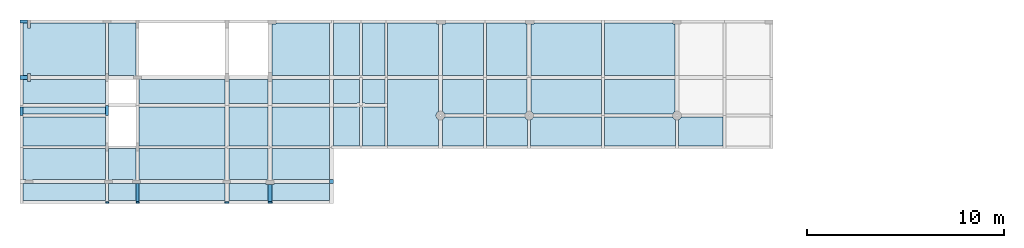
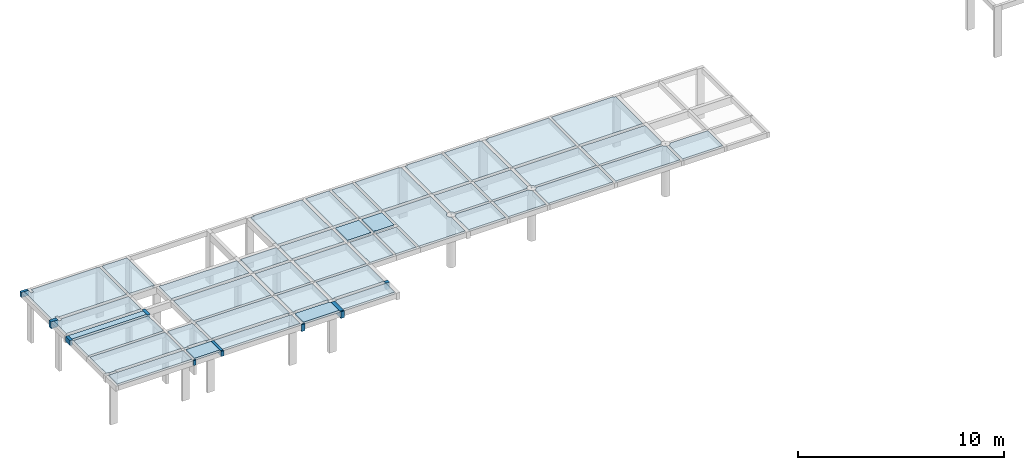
# One storey, part 3 of 4: 43 slabs, 11 beams.
"""IFC2X3 building model written with IfcOpenShell, lengths in centimetres."""

from ifc_helpers import new_model, si_unit, derived_unit, frame, origin, origin_with_axes, origin_2d_with_axis, place, context, project, spatial, polyline, rectangle, outline, extrude, material, element, save


model = new_model("IFC2X3")

# Units and contexts
model_context = context("Model", 3, precision=1e-05, world=origin_with_axes(), identifier="Body")
ifc_project = project(units=[si_unit("LENGTHUNIT", "METRE", prefix="CENTI"), si_unit("VOLUMEUNIT", "CUBIC_METRE"), si_unit("AREAUNIT", "SQUARE_METRE"), si_unit("POWERUNIT", "WATT"), si_unit("LUMINOUSFLUXUNIT", "LUMEN"), si_unit("ELECTRICCURRENTUNIT", "AMPERE"), si_unit("PRESSUREUNIT", "PASCAL", prefix="KILO"), si_unit("MASSUNIT", "GRAM", prefix="KILO"), si_unit("PLANEANGLEUNIT", "RADIAN"), derived_unit("VOLUMETRICFLOWRATEUNIT", [(si_unit("LENGTHUNIT", "METRE"), 3), (si_unit("TIMEUNIT", "SECOND"), -1)])], contexts=[model_context])

# Site, building, storey
site_placement = place(None, origin_with_axes())
site = spatial("IfcSite", under=ifc_project, at=site_placement)
building_placement = place(site_placement, origin())
building = spatial("IfcBuilding", under=site, at=building_placement)
placement_1 = place(building_placement, origin_with_axes())
placement_2 = place(placement_1, frame((0.0, 0.0, 80.0), z_axis=(0.0, 0.0, 1.0), x_axis=(1.0, 0.0, 0.0)))
placement_3 = place(placement_2, frame((0.0, 0.0, 320.0), z_axis=(0.0, 0.0, 1.0), x_axis=(1.0, 0.0, 0.0)))
placement_4 = place(placement_3, frame((0.0, 0.0, 320.0), z_axis=(0.0, 0.0, 1.0), x_axis=(1.0, 0.0, 0.0)))
storey_placement = place(placement_4, frame((0.0, 0.0, 300.0), z_axis=(0.0, 0.0, 1.0), x_axis=(1.0, 0.0, 0.0)))
storey = spatial("IfcBuildingStorey", under=building, at=storey_placement, Name="05. Pavimento Técnico", CompositionType="ELEMENT", Elevation=1020.0)

# Beams
ifc_material = material(Name="Concreto")
beam_1_placement = place(storey_placement, frame((-1474.96, -281.61, 0.0), z_axis=(0.0, 0.0, 1.0), x_axis=(1.0, 0.0, 0.0)))
element("IfcBeam", 1, at=beam_1_placement, inside=storey, material=ifc_material, Name="V1", context=model_context, shape_type="SolidModel", body=[
    extrude(rectangle(XDim=15.0, YDim=30.0, at=origin_2d_with_axis()), frame((-19.5, 0.0, -15.0), z_axis=(1.0, 0.0, 0.0), x_axis=(0.0, -1.0, 0.0)), (0.0, 0.0, 1.0), 39.0),
])
beam_2_placement = place(storey_placement, frame((85.54, -1094.11, 0.0), z_axis=(0.0, 0.0, 1.0), x_axis=(1.0, 0.0, 0.0)))
element("IfcBeam", 2, at=beam_2_placement, inside=storey, material=ifc_material, Name="V12", context=model_context, shape_type="SolidModel", body=[
    extrude(rectangle(XDim=20.0, YDim=40.0, at=origin_2d_with_axis()), frame((-10.0, 0.0, -20.0), z_axis=(1.0, 0.0, 0.0), x_axis=(0.0, -1.0, 0.0)), (0.0, 0.0, 1.0), 20.0),
])
beam_3_placement = place(storey_placement, frame((-1486.96, -737.785, 0.0), z_axis=(0.0, 0.0, 1.0), x_axis=(1.0, 0.0, 0.0)))
element("IfcBeam", 3, at=beam_3_placement, inside=storey, material=ifc_material, Name="V14", context=model_context, shape_type="SolidModel", body=[
    extrude(rectangle(XDim=15.0, YDim=30.0, at=origin_2d_with_axis()), frame((0.0, -21.175, -15.0), z_axis=(0.0, 1.0, 0.0), x_axis=(-1.0, 0.0, 0.0)), (0.0, 0.0, 1.0), 42.35),
])
beam_4_placement = place(storey_placement, frame((-1052.96, -732.785, 0.0), z_axis=(0.0, 0.0, 1.0), x_axis=(1.0, 0.0, 0.0)))
element("IfcBeam", 4, at=beam_4_placement, inside=storey, material=ifc_material, Name="V15", context=model_context, shape_type="SolidModel", body=[
    extrude(rectangle(XDim=15.0, YDim=30.0, at=origin_2d_with_axis()), frame((0.0, -26.175, -15.0), z_axis=(0.0, 1.0, 0.0), x_axis=(-1.0, 0.0, 0.0)), (0.0, 0.0, 1.0), 52.35),
])
for number, where, z_axis, x_axis, name in (
    (5, (-1052.96, -1200.36, 0.0), (0.0, 0.0, 1.0), (1.0, 0.0, 0.0), "V15"),
    (6, (-897.96, -1200.36, 0.0), (0.0, 0.0, 1.0), (1.0, 0.0, 0.0), "V16"),
):
    element("IfcBeam", number, at=place(storey_placement, frame(where, z_axis=z_axis, x_axis=x_axis)), inside=storey, material=ifc_material, Name=name, context=model_context, shape_type="SolidModel", body=[
        extrude(rectangle(XDim=15.0, YDim=30.0, at=origin_2d_with_axis()), frame((0.0, -3.75, -15.0), z_axis=(0.0, 1.0, 0.0), x_axis=(-1.0, 0.0, 0.0)), (0.0, 0.0, 1.0), 7.5),
    ])
beam_5_placement = place(storey_placement, frame((-897.96, -1150.355, 0.0), z_axis=(0.0, 0.0, 1.0), x_axis=(1.0, 0.0, 0.0)))
element("IfcBeam", 7, at=beam_5_placement, inside=storey, material=ifc_material, Name="V16", context=model_context, shape_type="SolidModel", body=[
    extrude(rectangle(XDim=15.0, YDim=30.0, at=origin_2d_with_axis()), frame((0.0, -46.255, -15.0), z_axis=(0.0, 1.0, 0.0), x_axis=(-1.0, 0.0, 0.0)), (0.0, 0.0, 1.0), 92.51),
])
for number, where, z_axis, x_axis, name in (
    (8, (-445.46, -1200.36, 0.0), (0.0, 0.0, 1.0), (1.0, 0.0, 0.0), "V17"),
    (9, (-225.46, -1200.36, 0.0), (0.0, 0.0, 1.0), (1.0, 0.0, 0.0), "V18"),
):
    element("IfcBeam", number, at=place(storey_placement, frame(where, z_axis=z_axis, x_axis=x_axis)), inside=storey, material=ifc_material, Name=name, context=model_context, shape_type="SolidModel", body=[
        extrude(rectangle(XDim=20.0, YDim=40.0, at=origin_2d_with_axis()), frame((0.0, -3.75, -20.0), z_axis=(0.0, 1.0, 0.0), x_axis=(1.0, 0.0, 0.0)), (0.0, 0.0, 1.0), 7.5),
    ])
beam_6_placement = place(storey_placement, frame((-225.46, -1152.855, 0.0), z_axis=(0.0, 0.0, 1.0), x_axis=(1.0, 0.0, 0.0)))
element("IfcBeam", 10, at=beam_6_placement, inside=storey, material=ifc_material, Name="V18", context=model_context, shape_type="SolidModel", body=[
    extrude(rectangle(XDim=20.0, YDim=40.0, at=origin_2d_with_axis()), frame((0.0, -43.755, -20.0), z_axis=(0.0, 1.0, 0.0), x_axis=(1.0, 0.0, 0.0)), (0.0, 0.0, 1.0), 87.51),
])
beam_7_placement = place(storey_placement, frame((-1474.96, -566.61, 0.0), z_axis=(0.0, 0.0, 1.0), x_axis=(1.0, 0.0, 0.0)))
element("IfcBeam", 11, at=beam_7_placement, inside=storey, material=ifc_material, Name="V3", context=model_context, shape_type="SolidModel", body=[
    extrude(rectangle(XDim=20.0, YDim=40.0, at=origin_2d_with_axis()), frame((-19.5, 0.0, -20.0), z_axis=(1.0, 0.0, 0.0), x_axis=(0.0, -1.0, 0.0)), (0.0, 0.0, 1.0), 39.0),
])

# Slabs
slab_1_placement = place(storey_placement, frame((-1269.96, -422.86, 0.0), z_axis=(0.0, 0.0, 1.0), x_axis=(1.0, 0.0, 0.0)))
element("IfcSlab", 12, at=slab_1_placement, inside=storey, material=ifc_material, Name="L1", PredefinedType="FLOOR", context=model_context, shape_type="SolidModel", body=[
    extrude(outline(polyline([(-185.5, -133.749), (-185.5, -123.75), (-170.5, -123.75), (-170.499, -133.749), (209.499, -133.749), (209.499, 133.28), (196.999, 133.28), (197.0, 133.749), (-170.5, 133.749), (-170.5, 108.749), (-185.5, 108.749), (-185.499, 133.75), (-209.499, 133.75), (-209.499, -133.75), (-185.5, -133.749), (-185.5, -133.749)])), frame((0.0, 0.0, -12.0), z_axis=(0.0, 0.0, 1.0), x_axis=(1.0, 0.0, 0.0)), (0.0, 0.0, 1.0), 12.0),
])
slab_2_placement = place(storey_placement, frame((1649.8545, -422.8595, 0.0), z_axis=(0.0, 0.0, 1.0), x_axis=(1.0, 0.0, 0.0)))
element("IfcSlab", 13, at=slab_2_placement, inside=storey, material=ifc_material, Name="L10", PredefinedType="FLOOR", context=model_context, shape_type="SolidModel", body=[
    extrude(outline(polyline([(178.684, 128.749), (168.684, 128.749), (168.684, 133.75), (-178.685, 133.75), (-178.685, -133.749), (178.684, -133.749), (178.684, 128.749), (178.684, 128.749)])), frame((0.0005, -0.0005, -12.0), z_axis=(0.0, 0.0, 1.0), x_axis=(1.0, 0.0, 0.0)), (0.0, 0.0, 1.0), 12.0),
])
slab_3_placement = place(storey_placement, frame((-1269.96, -636.61, 0.0), z_axis=(0.0, 0.0, 1.0), x_axis=(1.0, 0.0, 0.0)))
element("IfcSlab", 14, at=slab_3_placement, inside=storey, material=ifc_material, Name="L14", PredefinedType="FLOOR", context=model_context, shape_type="SolidModel", body=[
    extrude(outline(polyline([(209.5, -60.0), (209.499, 60.0), (-170.5, 60.0), (-170.5, 49.999), (-185.5, 49.999), (-185.5, 59.999), (-209.5, 59.999), (-209.5, -60.0), (209.5, -60.0), (209.5, -60.0)])), frame((0.0, 0.0, -12.0), z_axis=(0.0, 0.0, 1.0), x_axis=(1.0, 0.0, 0.0)), (0.0, 0.0, 1.0), 12.0),
])
slab_4_placement = place(storey_placement, frame((-672.9595, -635.36, 0.0), z_axis=(0.0, 0.0, 1.0), x_axis=(1.0, 0.0, 0.0)))
element("IfcSlab", 15, at=slab_4_placement, inside=storey, material=ifc_material, Name="L15", PredefinedType="FLOOR", context=model_context, shape_type="SolidModel", body=[
    extrude(outline(polyline([(217.5, 58.749), (-208.0, 58.749), (-208.0, 61.249), (-217.499, 61.25), (-217.499, -61.25), (217.5, -61.25), (217.5, 58.749), (217.5, 58.749)])), frame((-0.0005, 0.0, -12.0), z_axis=(0.0, 0.0, 1.0), x_axis=(1.0, 0.0, 0.0)), (0.0, 0.0, 1.0), 12.0),
])
slab_5_placement = place(storey_placement, frame((-335.46, -636.61, 0.0), z_axis=(0.0, 0.0, 1.0), x_axis=(1.0, 0.0, 0.0)))
element("IfcSlab", 16, at=slab_5_placement, inside=storey, material=ifc_material, Name="L16", PredefinedType="FLOOR", context=model_context, shape_type="SolidModel", body=[
    extrude(outline(polyline([(99.999, -59.999), (100.0, 60.0), (-99.999, 59.999), (-100.0, -60.0), (99.999, -59.999), (99.999, -59.999)])), frame((0.0, 0.0, -12.0), z_axis=(0.0, 0.0, 1.0), x_axis=(1.0, 0.0, 0.0)), (0.0, 0.0, 1.0), 12.0),
])
slab_6_placement = place(storey_placement, frame((-69.9595, -636.6105, 0.0), z_axis=(0.0, 0.0, 1.0), x_axis=(1.0, 0.0, 0.0)))
element("IfcSlab", 17, at=slab_6_placement, inside=storey, material=ifc_material, Name="L17", PredefinedType="FLOOR", context=model_context, shape_type="SolidModel", body=[
    extrude(outline(polyline([(145.5, 59.999), (-145.499, 59.999), (-145.499, -59.999), (145.5, -60.0), (145.5, 59.999), (145.5, 59.999)])), frame((-0.0005, 0.0005, -12.0), z_axis=(0.0, 0.0, 1.0), x_axis=(1.0, 0.0, 0.0)), (0.0, 0.0, 1.0), 12.0),
])
slab_7_placement = place(storey_placement, frame((161.29, -636.61, 0.0), z_axis=(0.0, 0.0, 1.0), x_axis=(1.0, 0.0, 0.0)))
element("IfcSlab", 18, at=slab_7_placement, inside=storey, material=ifc_material, Name="L18", PredefinedType="FLOOR", context=model_context, shape_type="SolidModel", body=[
    extrude(outline(polyline([(53.249, -57.5), (65.75, -57.5), (65.75, 60.0), (-65.75, 59.999), (-65.75, -60.0), (53.25, -60.0), (53.249, -57.5), (53.249, -57.5)])), frame((0.0, 0.0, -12.0), z_axis=(0.0, 0.0, 1.0), x_axis=(1.0, 0.0, 0.0)), (0.0, 0.0, 1.0), 12.0),
])
slab_8_placement = place(storey_placement, frame((298.9155, -636.61, 0.0), z_axis=(0.0, 0.0, 1.0), x_axis=(1.0, 0.0, 0.0)))
element("IfcSlab", 19, at=slab_8_placement, inside=storey, material=ifc_material, Name="L19", PredefinedType="FLOOR", context=model_context, shape_type="SolidModel", body=[
    extrude(outline(polyline([(56.875, 59.999), (-56.874, 59.999), (-56.874, -57.5), (-44.375, -57.5), (-44.375, -59.999), (56.874, -59.999), (56.875, 59.999), (56.875, 59.999)])), frame((-0.0005, 0.0, -12.0), z_axis=(0.0, 0.0, 1.0), x_axis=(1.0, 0.0, 0.0)), (0.0, 0.0, 1.0), 12.0),
])
slab_9_placement = place(storey_placement, frame((-975.46, -424.11, 0.0), z_axis=(0.0, 0.0, 1.0), x_axis=(1.0, 0.0, 0.0)))
element("IfcSlab", 20, at=slab_9_placement, inside=storey, material=ifc_material, Name="L2", PredefinedType="FLOOR", context=model_context, shape_type="SolidModel", body=[
    extrude(outline(polyline([(69.999, -134.999), (70.0, 134.999), (-57.5, 134.999), (-57.5, 134.53), (-70.0, 134.53), (-69.999, -132.499), (60.499, -132.5), (60.5, -134.999), (69.999, -134.999), (69.999, -134.999)])), frame((0.0, 0.0, -12.0), z_axis=(0.0, 0.0, 1.0), x_axis=(1.0, 0.0, 0.0)), (0.0, 0.0, 1.0), 12.0),
])
slab_10_placement = place(storey_placement, frame((499.6655, -744.36, 0.0), z_axis=(0.0, 0.0, 1.0), x_axis=(1.0, 0.0, 0.0)))
element("IfcSlab", 21, at=slab_10_placement, inside=storey, material=ifc_material, Name="L20", PredefinedType="FLOOR", context=model_context, shape_type="SolidModel", body=[
    extrude(outline(polyline([(128.875, -34.552), (127.754, -34.09), (123.094, -30.51), (119.514, -25.85), (117.275, -20.419), (116.504, -14.6), (117.275, -8.779), (119.514, -3.35), (123.094, 1.31), (127.754, 4.889), (128.875, 5.352), (128.874, 167.75), (-128.874, 167.75), (-128.874, -167.749), (128.875, -167.75), (128.875, -34.552), (128.875, -34.552)])), frame((-0.0005, 0.0, -12.0), z_axis=(0.0, 0.0, 1.0), x_axis=(1.0, 0.0, 0.0)), (0.0, 0.0, 1.0), 12.0),
])
slab_11_placement = place(storey_placement, frame((752.29, -664.0355, 0.0), z_axis=(0.0, 0.0, 1.0), x_axis=(1.0, 0.0, 0.0)))
element("IfcSlab", 22, at=slab_11_placement, inside=storey, material=ifc_material, Name="L21", PredefinedType="FLOOR", context=model_context, shape_type="SolidModel", body=[
    extrude(outline(polyline([(103.75, 87.424), (-103.75, 87.424), (-103.75, -74.865), (-102.37, -75.435), (-97.709, -79.014), (-94.13, -83.675), (-92.583, -87.425), (103.75, -87.425), (103.75, 87.424), (103.75, 87.424)])), frame((0.0, 0.0005, -12.0), z_axis=(0.0, 0.0, 1.0), x_axis=(1.0, 0.0, 0.0)), (0.0, 0.0, 1.0), 12.0),
])
slab_12_placement = place(storey_placement, frame((974.79, -664.0345, 0.0), z_axis=(0.0, 0.0, 1.0), x_axis=(1.0, 0.0, 0.0)))
element("IfcSlab", 23, at=slab_12_placement, inside=storey, material=ifc_material, Name="L22", PredefinedType="FLOOR", context=model_context, shape_type="SolidModel", body=[
    extrude(outline(polyline([(94.39, -83.675), (97.969, -79.014), (102.63, -75.435), (103.749, -74.972), (103.749, 87.424), (-103.749, 87.425), (-103.749, -87.424), (92.843, -87.424), (94.39, -83.675), (94.39, -83.675)])), frame((0.0, -0.0005, -12.0), z_axis=(0.0, 0.0, 1.0), x_axis=(1.0, 0.0, 0.0)), (0.0, 0.0, 1.0), 12.0),
])
slab_13_placement = place(storey_placement, frame((1277.3555, -664.0345, 0.0), z_axis=(0.0, 0.0, 1.0), x_axis=(1.0, 0.0, 0.0)))
element("IfcSlab", 24, at=slab_13_placement, inside=storey, material=ifc_material, Name="L23", PredefinedType="FLOOR", context=model_context, shape_type="SolidModel", body=[
    extrude(outline(polyline([(178.815, 87.425), (-178.814, 87.425), (-178.814, -74.865), (-177.434, -75.435), (-172.775, -79.014), (-169.194, -83.675), (-167.648, -87.424), (178.815, -87.424), (178.815, 87.425), (178.815, 87.425)])), frame((-0.0005, -0.0005, -12.0), z_axis=(0.0, 0.0, 1.0), x_axis=(1.0, 0.0, 0.0)), (0.0, 0.0, 1.0), 12.0),
])
slab_14_placement = place(storey_placement, frame((1649.8555, -664.035, 0.0), z_axis=(0.0, 0.0, 1.0), x_axis=(1.0, 0.0, 0.0)))
element("IfcSlab", 25, at=slab_14_placement, inside=storey, material=ifc_material, Name="L24", PredefinedType="FLOOR", context=model_context, shape_type="SolidModel", body=[
    extrude(outline(polyline([(169.325, -83.675), (172.905, -79.014), (177.565, -75.435), (178.684, -74.972), (178.685, 87.425), (-178.684, 87.424), (-178.684, -87.425), (167.778, -87.425), (169.325, -83.675), (169.325, -83.675)])), frame((-0.0005, 0.0, -12.0), z_axis=(0.0, 0.0, 1.0), x_axis=(1.0, 0.0, 0.0)), (0.0, 0.0, 1.0), 12.0),
])
slab_15_placement = place(storey_placement, frame((-1269.9595, -734.035, 0.0), z_axis=(0.0, 0.0, 1.0), x_axis=(1.0, 0.0, 0.0)))
element("IfcSlab", 26, at=slab_15_placement, inside=storey, material=ifc_material, Name="L27", PredefinedType="FLOOR", context=model_context, shape_type="SolidModel", body=[
    extrude(outline(polyline([(209.5, 17.425), (-209.499, 17.425), (-209.499, -17.425), (209.5, -17.425), (209.5, 17.425), (209.5, 17.425)])), frame((-0.0005, 0.0, -12.0), z_axis=(0.0, 0.0, 1.0), x_axis=(1.0, 0.0, 0.0)), (0.0, 0.0, 1.0), 12.0),
])
slab_16_placement = place(storey_placement, frame((-672.96, -814.3605, 0.0), z_axis=(0.0, 0.0, 1.0), x_axis=(1.0, 0.0, 0.0)))
element("IfcSlab", 27, at=slab_16_placement, inside=storey, material=ifc_material, Name="L28", PredefinedType="FLOOR", context=model_context, shape_type="SolidModel", body=[
    extrude(outline(polyline([(217.499, 97.749), (-217.499, 97.749), (-217.499, -97.75), (217.499, -97.75), (217.499, 97.749), (217.499, 97.749)])), frame((0.0, 0.0005, -12.0), z_axis=(0.0, 0.0, 1.0), x_axis=(1.0, 0.0, 0.0)), (0.0, 0.0, 1.0), 12.0),
])
slab_17_placement = place(storey_placement, frame((-335.46, -814.36, 0.0), z_axis=(0.0, 0.0, 1.0), x_axis=(1.0, 0.0, 0.0)))
element("IfcSlab", 28, at=slab_17_placement, inside=storey, material=ifc_material, Name="L29", PredefinedType="FLOOR", context=model_context, shape_type="SolidModel", body=[
    extrude(outline(polyline([(99.999, 97.75), (-99.999, 97.749), (-99.999, -97.75), (99.999, -97.75), (99.999, 97.75), (99.999, 97.75)])), frame((0.0, 0.0, -12.0), z_axis=(0.0, 0.0, 1.0), x_axis=(1.0, 0.0, 0.0)), (0.0, 0.0, 1.0), 12.0),
])
slab_18_placement = place(storey_placement, frame((-69.96, -422.86, 0.0), z_axis=(0.0, 0.0, 1.0), x_axis=(1.0, 0.0, 0.0)))
element("IfcSlab", 29, at=slab_18_placement, inside=storey, material=ifc_material, Name="L3", PredefinedType="FLOOR", context=model_context, shape_type="SolidModel", body=[
    extrude(outline(polyline([(145.5, 133.75), (-125.499, 133.75), (-125.5, 128.749), (-145.5, 128.75), (-145.5, -133.75), (145.499, -133.75), (145.5, 133.75), (145.5, 133.75)])), frame((0.0, 0.0, -12.0), z_axis=(0.0, 0.0, 1.0), x_axis=(1.0, 0.0, 0.0)), (0.0, 0.0, 1.0), 12.0),
])
slab_19_placement = place(storey_placement, frame((-69.96, -814.36, 0.0), z_axis=(0.0, 0.0, 1.0), x_axis=(1.0, 0.0, 0.0)))
element("IfcSlab", 30, at=slab_19_placement, inside=storey, material=ifc_material, Name="L30", PredefinedType="FLOOR", context=model_context, shape_type="SolidModel", body=[
    extrude(outline(polyline([(145.5, 97.749), (-145.5, 97.75), (-145.5, -97.75), (145.5, -97.75), (145.5, 97.749), (145.5, 97.749)])), frame((0.0, 0.0, -12.0), z_axis=(0.0, 0.0, 1.0), x_axis=(1.0, 0.0, 0.0)), (0.0, 0.0, 1.0), 12.0),
])
slab_20_placement = place(storey_placement, frame((161.2905, -813.11, 0.0), z_axis=(0.0, 0.0, 1.0), x_axis=(1.0, 0.0, 0.0)))
element("IfcSlab", 31, at=slab_20_placement, inside=storey, material=ifc_material, Name="L31", PredefinedType="FLOOR", context=model_context, shape_type="SolidModel", body=[
    extrude(outline(polyline([(65.749, 99.0), (56.249, 98.999), (56.249, 96.499), (-65.749, 96.5), (-65.749, -99.0), (65.75, -99.0), (65.749, 99.0), (65.749, 99.0)])), frame((-0.0005, 0.0, -12.0), z_axis=(0.0, 0.0, 1.0), x_axis=(1.0, 0.0, 0.0)), (0.0, 0.0, 1.0), 12.0),
])
slab_21_placement = place(storey_placement, frame((298.9145, -813.11, 0.0), z_axis=(0.0, 0.0, 1.0), x_axis=(1.0, 0.0, 0.0)))
element("IfcSlab", 32, at=slab_21_placement, inside=storey, material=ifc_material, Name="L32", PredefinedType="FLOOR", context=model_context, shape_type="SolidModel", body=[
    extrude(outline(polyline([(56.874, 96.499), (-47.375, 96.499), (-47.375, 99.0), (-56.875, 98.999), (-56.875, -99.0), (56.874, -99.0), (56.874, 96.499), (56.874, 96.499)])), frame((0.0005, 0.0, -12.0), z_axis=(0.0, 0.0, 1.0), x_axis=(1.0, 0.0, 0.0)), (0.0, 0.0, 1.0), 12.0),
])
slab_22_placement = place(storey_placement, frame((-1269.96, -839.285, 0.0), z_axis=(0.0, 0.0, 1.0), x_axis=(1.0, 0.0, 0.0)))
element("IfcSlab", 33, at=slab_22_placement, inside=storey, material=ifc_material, Name="L34", PredefinedType="FLOOR", context=model_context, shape_type="SolidModel", body=[
    extrude(outline(polyline([(209.5, -72.824), (209.499, 72.824), (-209.5, 72.825), (-209.5, -72.825), (209.5, -72.824), (209.5, -72.824)])), frame((0.0, 0.0, -12.0), z_axis=(0.0, 0.0, 1.0), x_axis=(1.0, 0.0, 0.0)), (0.0, 0.0, 1.0), 12.0),
])
slab_23_placement = place(storey_placement, frame((752.29, -839.2855, 0.0), z_axis=(0.0, 0.0, 1.0), x_axis=(1.0, 0.0, 0.0)))
element("IfcSlab", 34, at=slab_23_placement, inside=storey, material=ifc_material, Name="L35", PredefinedType="FLOOR", context=model_context, shape_type="SolidModel", body=[
    extrude(outline(polyline([(103.749, 72.824), (-92.583, 72.824), (-94.13, 69.074), (-97.709, 64.414), (-102.37, 60.834), (-103.749, 60.265), (-103.749, -72.825), (103.749, -72.825), (103.749, 72.824), (103.749, 72.824)])), frame((0.0, 0.0005, -12.0), z_axis=(0.0, 0.0, 1.0), x_axis=(1.0, 0.0, 0.0)), (0.0, 0.0, 1.0), 12.0),
])
slab_24_placement = place(storey_placement, frame((976.04, -839.2855, 0.0), z_axis=(0.0, 0.0, 1.0), x_axis=(1.0, 0.0, 0.0)))
element("IfcSlab", 35, at=slab_24_placement, inside=storey, material=ifc_material, Name="L36", PredefinedType="FLOOR", context=model_context, shape_type="SolidModel", body=[
    extrude(outline(polyline([(105.0, 59.341), (101.38, 60.834), (96.719, 64.414), (93.14, 69.074), (91.593, 72.824), (-105.0, 72.824), (-105.0, -72.825), (105.0, -72.825), (105.0, 59.341), (105.0, 59.341)])), frame((0.0, 0.0005, -12.0), z_axis=(0.0, 0.0, 1.0), x_axis=(1.0, 0.0, 0.0)), (0.0, 0.0, 1.0), 12.0),
])
slab_25_placement = place(storey_placement, frame((1276.105, -839.285, 0.0), z_axis=(0.0, 0.0, 1.0), x_axis=(1.0, 0.0, 0.0)))
element("IfcSlab", 36, at=slab_25_placement, inside=storey, material=ifc_material, Name="L37", PredefinedType="FLOOR", context=model_context, shape_type="SolidModel", body=[
    extrude(outline(polyline([(180.064, 72.825), (-166.398, 72.825), (-167.944, 69.074), (-171.525, 64.414), (-176.184, 60.834), (-180.064, 59.234), (-180.064, -72.825), (180.064, -72.825), (180.064, 72.825), (180.064, 72.825)])), frame((0.0, 0.0, -12.0), z_axis=(0.0, 0.0, 1.0), x_axis=(1.0, 0.0, 0.0)), (0.0, 0.0, 1.0), 12.0),
])
slab_26_placement = place(storey_placement, frame((1651.105, -839.285, 0.0), z_axis=(0.0, 0.0, 1.0), x_axis=(1.0, 0.0, 0.0)))
element("IfcSlab", 37, at=slab_26_placement, inside=storey, material=ifc_material, Name="L38", PredefinedType="FLOOR", context=model_context, shape_type="SolidModel", body=[
    extrude(outline(polyline([(179.934, 59.341), (176.315, 60.834), (171.655, 64.414), (168.075, 69.074), (166.528, 72.824), (-179.934, 72.825), (-179.934, -72.825), (179.934, -72.825), (179.934, 59.341), (179.934, 59.341)])), frame((0.0, 0.0, -12.0), z_axis=(0.0, 0.0, 1.0), x_axis=(1.0, 0.0, 0.0)), (0.0, 0.0, 1.0), 12.0),
])
slab_27_placement = place(storey_placement, frame((1958.415, -839.2845, 0.0), z_axis=(0.0, 0.0, 1.0), x_axis=(1.0, 0.0, 0.0)))
element("IfcSlab", 38, at=slab_27_placement, inside=storey, material=ifc_material, Name="L39", PredefinedType="FLOOR", context=model_context, shape_type="SolidModel", body=[
    extrude(outline(polyline([(112.375, 72.825), (-98.708, 72.825), (-100.254, 69.074), (-103.835, 64.414), (-108.494, 60.834), (-112.375, 59.234), (-112.375, -72.824), (112.375, -72.824), (112.375, 72.825), (112.375, 72.825)])), frame((0.0, -0.0005, -12.0), z_axis=(0.0, 0.0, 1.0), x_axis=(1.0, 0.0, 0.0)), (0.0, 0.0, 1.0), 12.0),
])
slab_28_placement = place(storey_placement, frame((161.29, -422.8595, 0.0), z_axis=(0.0, 0.0, 1.0), x_axis=(1.0, 0.0, 0.0)))
element("IfcSlab", 39, at=slab_28_placement, inside=storey, material=ifc_material, Name="L4", PredefinedType="FLOOR", context=model_context, shape_type="SolidModel", body=[
    extrude(outline(polyline([(65.749, 133.75), (-65.749, 133.75), (-65.749, -133.749), (65.749, -133.749), (65.749, 133.75), (65.749, 133.75)])), frame((0.0, -0.0005, -12.0), z_axis=(0.0, 0.0, 1.0), x_axis=(1.0, 0.0, 0.0)), (0.0, 0.0, 1.0), 12.0),
])
slab_29_placement = place(storey_placement, frame((-1269.9595, -1008.11, 0.0), z_axis=(0.0, 0.0, 1.0), x_axis=(1.0, 0.0, 0.0)))
element("IfcSlab", 40, at=slab_29_placement, inside=storey, material=ifc_material, Name="L41", PredefinedType="FLOOR", context=model_context, shape_type="SolidModel", body=[
    extrude(outline(polyline([(-161.0, -75.999), (207.999, -75.999), (207.251, -80.989), (209.499, -80.989), (209.5, 80.999), (-209.499, 81.0), (-209.499, -76.0), (-195.0, -75.999), (-195.75, -81.0), (-160.25, -81.0), (-161.0, -75.999), (-161.0, -75.999)])), frame((-0.0005, 0.0, -12.0), z_axis=(0.0, 0.0, 1.0), x_axis=(1.0, 0.0, 0.0)), (0.0, 0.0, 1.0), 12.0),
])
slab_30_placement = place(storey_placement, frame((-975.46, -1008.1045, 0.0), z_axis=(0.0, 0.0, 1.0), x_axis=(1.0, 0.0, 0.0)))
element("IfcSlab", 41, at=slab_30_placement, inside=storey, material=ifc_material, Name="L42", PredefinedType="FLOOR", context=model_context, shape_type="SolidModel", body=[
    extrude(outline(polyline([(-52.5, -76.004), (53.999, -76.004), (53.251, -80.994), (70.0, -80.994), (69.999, 80.995), (-70.0, 80.995), (-69.999, -80.994), (-51.751, -80.994), (-52.5, -76.004), (-52.5, -76.004)])), frame((0.0, -0.0005, -12.0), z_axis=(0.0, 0.0, 1.0), x_axis=(1.0, 0.0, 0.0)), (0.0, 0.0, 1.0), 12.0),
])
slab_31_placement = place(storey_placement, frame((-672.96, -1008.1045, 0.0), z_axis=(0.0, 0.0, 1.0), x_axis=(1.0, 0.0, 0.0)))
element("IfcSlab", 42, at=slab_31_placement, inside=storey, material=ifc_material, Name="L43", PredefinedType="FLOOR", context=model_context, shape_type="SolidModel", body=[
    extrude(outline(polyline([(-214.5, -76.004), (210.5, -76.004), (209.751, -80.994), (217.5, -80.994), (217.5, 80.994), (-217.5, 80.995), (-217.499, -80.994), (-213.751, -80.994), (-214.5, -76.004), (-214.5, -76.004)])), frame((0.0, -0.0005, -12.0), z_axis=(0.0, 0.0, 1.0), x_axis=(1.0, 0.0, 0.0)), (0.0, 0.0, 1.0), 12.0),
])
slab_32_placement = place(storey_placement, frame((-335.46, -1008.105, 0.0), z_axis=(0.0, 0.0, 1.0), x_axis=(1.0, 0.0, 0.0)))
element("IfcSlab", 43, at=slab_32_placement, inside=storey, material=ifc_material, Name="L44", PredefinedType="FLOOR", context=model_context, shape_type="SolidModel", body=[
    extrude(outline(polyline([(-92.999, -76.004), (92.999, -76.004), (92.999, -80.994), (100.0, -80.994), (100.0, 80.994), (-100.0, 80.995), (-100.0, -80.994), (-92.251, -80.995), (-92.999, -76.004), (-92.999, -76.004)])), frame((0.0, 0.0, -12.0), z_axis=(0.0, 0.0, 1.0), x_axis=(1.0, 0.0, 0.0)), (0.0, 0.0, 1.0), 12.0),
])
slab_33_placement = place(storey_placement, frame((-69.96, -1008.105, 0.0), z_axis=(0.0, 0.0, 1.0), x_axis=(1.0, 0.0, 0.0)))
element("IfcSlab", 44, at=slab_33_placement, inside=storey, material=ifc_material, Name="L45", PredefinedType="FLOOR", context=model_context, shape_type="SolidModel", body=[
    extrude(outline(polyline([(-138.5, -76.004), (145.499, -76.004), (145.499, 80.994), (-145.499, 80.994), (-145.499, -80.994), (-138.5, -80.994), (-138.5, -76.004), (-138.5, -76.004)])), frame((0.0, 0.0, -12.0), z_axis=(0.0, 0.0, 1.0), x_axis=(1.0, 0.0, 0.0)), (0.0, 0.0, 1.0), 12.0),
])
slab_34_placement = place(storey_placement, frame((-1269.9595, -1146.6045, 0.0), z_axis=(0.0, 0.0, 1.0), x_axis=(1.0, 0.0, 0.0)))
element("IfcSlab", 45, at=slab_34_placement, inside=storey, material=ifc_material, Name="L46", PredefinedType="FLOOR", context=model_context, shape_type="SolidModel", body=[
    extrude(outline(polyline([(209.5, 42.505), (-209.499, 42.494), (-209.499, -42.504), (209.5, -42.504), (209.5, 42.505), (209.5, 42.505)])), frame((-0.0005, -0.0005, -12.0), z_axis=(0.0, 0.0, 1.0), x_axis=(1.0, 0.0, 0.0)), (0.0, 0.0, 1.0), 12.0),
])
slab_35_placement = place(storey_placement, frame((-975.46, -1146.605, 0.0), z_axis=(0.0, 0.0, 1.0), x_axis=(1.0, 0.0, 0.0)))
element("IfcSlab", 46, at=slab_35_placement, inside=storey, material=ifc_material, Name="L47", PredefinedType="FLOOR", context=model_context, shape_type="SolidModel", body=[
    extrude(outline(polyline([(70.0, 42.505), (-70.0, 42.505), (-70.0, -42.505), (70.0, -42.505), (70.0, 42.505), (70.0, 42.505)])), frame((0.0, 0.0, -12.0), z_axis=(0.0, 0.0, 1.0), x_axis=(1.0, 0.0, 0.0)), (0.0, 0.0, 1.0), 12.0),
])
slab_36_placement = place(storey_placement, frame((-672.96, -1146.6045, 0.0), z_axis=(0.0, 0.0, 1.0), x_axis=(1.0, 0.0, 0.0)))
element("IfcSlab", 47, at=slab_36_placement, inside=storey, material=ifc_material, Name="L48", PredefinedType="FLOOR", context=model_context, shape_type="SolidModel", body=[
    extrude(outline(polyline([(217.5, 42.505), (-217.5, 42.505), (-217.5, -42.504), (217.5, -42.504), (217.5, 42.505), (217.5, 42.505)])), frame((0.0, -0.0005, -12.0), z_axis=(0.0, 0.0, 1.0), x_axis=(1.0, 0.0, 0.0)), (0.0, 0.0, 1.0), 12.0),
])
slab_37_placement = place(storey_placement, frame((-335.4605, -1146.605, 0.0), z_axis=(0.0, 0.0, 1.0), x_axis=(1.0, 0.0, 0.0)))
element("IfcSlab", 48, at=slab_37_placement, inside=storey, material=ifc_material, Name="L49", PredefinedType="FLOOR", context=model_context, shape_type="SolidModel", body=[
    extrude(outline(polyline([(99.999, 37.505), (89.999, 37.505), (89.999, 42.495), (-100.0, 42.505), (-100.0, -42.505), (99.999, -42.505), (99.999, 37.505), (99.999, 37.505)])), frame((0.0005, 0.0, -12.0), z_axis=(0.0, 0.0, 1.0), x_axis=(1.0, 0.0, 0.0)), (0.0, 0.0, 1.0), 12.0),
])
slab_38_placement = place(storey_placement, frame((298.915, -422.8595, 0.0), z_axis=(0.0, 0.0, 1.0), x_axis=(1.0, 0.0, 0.0)))
element("IfcSlab", 49, at=slab_38_placement, inside=storey, material=ifc_material, Name="L5", PredefinedType="FLOOR", context=model_context, shape_type="SolidModel", body=[
    extrude(outline(polyline([(56.875, 133.75), (-56.875, 133.75), (-56.874, -133.749), (56.875, -133.749), (56.875, 133.75), (56.875, 133.75)])), frame((0.0, -0.0005, -12.0), z_axis=(0.0, 0.0, 1.0), x_axis=(1.0, 0.0, 0.0)), (0.0, 0.0, 1.0), 12.0),
])
slab_39_placement = place(storey_placement, frame((-69.96, -1146.6095, 0.0), z_axis=(0.0, 0.0, 1.0), x_axis=(1.0, 0.0, 0.0)))
element("IfcSlab", 50, at=slab_39_placement, inside=storey, material=ifc_material, Name="L50", PredefinedType="FLOOR", context=model_context, shape_type="SolidModel", body=[
    extrude(outline(polyline([(145.5, 42.5), (-135.499, 42.5), (-135.5, 37.51), (-145.5, 37.51), (-145.5, -42.499), (145.5, -42.499), (145.5, 42.5), (145.5, 42.5)])), frame((0.0, -0.0005, -12.0), z_axis=(0.0, 0.0, 1.0), x_axis=(1.0, 0.0, 0.0)), (0.0, 0.0, 1.0), 12.0),
])
slab_40_placement = place(storey_placement, frame((499.6645, -422.86, 0.0), z_axis=(0.0, 0.0, 1.0), x_axis=(1.0, 0.0, 0.0)))
element("IfcSlab", 51, at=slab_40_placement, inside=storey, material=ifc_material, Name="L6", PredefinedType="FLOOR", context=model_context, shape_type="SolidModel", body=[
    extrude(outline(polyline([(128.874, 128.749), (118.874, 128.749), (118.874, 133.75), (-128.875, 133.75), (-128.875, -133.75), (128.874, -133.75), (128.874, 128.749), (128.874, 128.749)])), frame((0.0005, 0.0, -12.0), z_axis=(0.0, 0.0, 1.0), x_axis=(1.0, 0.0, 0.0)), (0.0, 0.0, 1.0), 12.0),
])
slab_41_placement = place(storey_placement, frame((752.2895, -422.86, 0.0), z_axis=(0.0, 0.0, 1.0), x_axis=(1.0, 0.0, 0.0)))
element("IfcSlab", 52, at=slab_41_placement, inside=storey, material=ifc_material, Name="L7", PredefinedType="FLOOR", context=model_context, shape_type="SolidModel", body=[
    extrude(outline(polyline([(103.749, 133.75), (-88.75, 133.75), (-88.75, 128.749), (-103.75, 128.749), (-103.75, -133.75), (103.749, -133.75), (103.749, 133.75), (103.749, 133.75)])), frame((0.0005, 0.0, -12.0), z_axis=(0.0, 0.0, 1.0), x_axis=(1.0, 0.0, 0.0)), (0.0, 0.0, 1.0), 12.0),
])
slab_42_placement = place(storey_placement, frame((974.79, -422.8605, 0.0), z_axis=(0.0, 0.0, 1.0), x_axis=(1.0, 0.0, 0.0)))
element("IfcSlab", 53, at=slab_42_placement, inside=storey, material=ifc_material, Name="L8", PredefinedType="FLOOR", context=model_context, shape_type="SolidModel", body=[
    extrude(outline(polyline([(103.749, 128.749), (93.749, 128.749), (93.749, 133.749), (-103.75, 133.749), (-103.749, -133.75), (103.75, -133.75), (103.749, 128.749), (103.749, 128.749)])), frame((0.0, 0.0005, -12.0), z_axis=(0.0, 0.0, 1.0), x_axis=(1.0, 0.0, 0.0)), (0.0, 0.0, 1.0), 12.0),
])
slab_43_placement = place(storey_placement, frame((1277.355, -422.86, 0.0), z_axis=(0.0, 0.0, 1.0), x_axis=(1.0, 0.0, 0.0)))
element("IfcSlab", 54, at=slab_43_placement, inside=storey, material=ifc_material, Name="L9", PredefinedType="FLOOR", context=model_context, shape_type="SolidModel", body=[
    extrude(outline(polyline([(178.815, 133.749), (-163.814, 133.75), (-163.815, 128.749), (-178.815, 128.749), (-178.815, -133.75), (178.815, -133.75), (178.815, 133.749), (178.815, 133.749)])), frame((0.0, 0.0, -12.0), z_axis=(0.0, 0.0, 1.0), x_axis=(1.0, 0.0, 0.0)), (0.0, 0.0, 1.0), 12.0),
])

save(model, "model.ifc")
